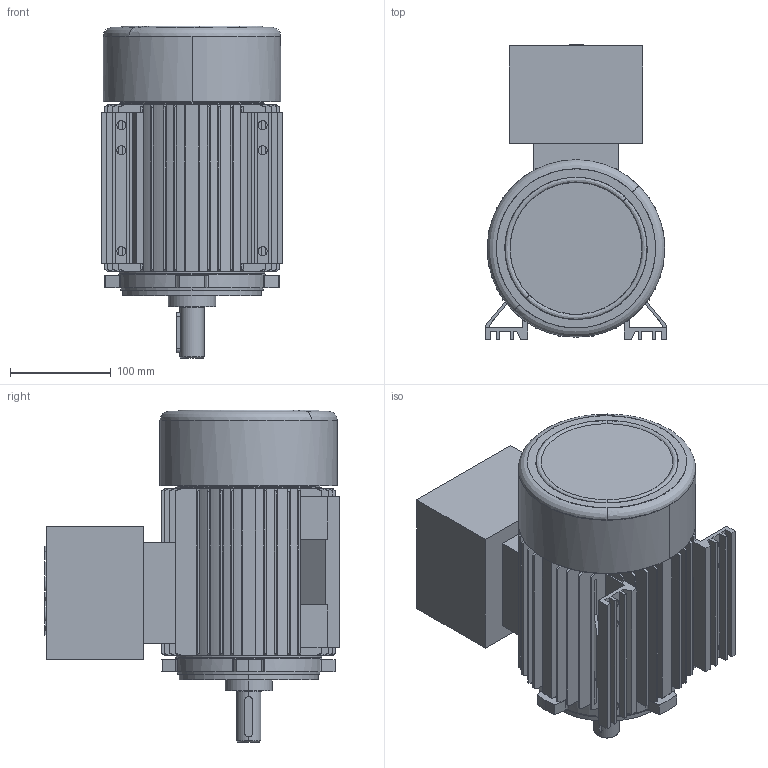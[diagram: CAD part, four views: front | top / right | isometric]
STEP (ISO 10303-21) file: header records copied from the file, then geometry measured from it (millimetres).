
FILE_DESCRIPTION (( 'STEP AP214' ), '1' );
FILE_NAME ('20.18392-A 5AT 90 B3 Exd STANDK.STEP', '2018-05-08T07:35:33', ( '' ), ( '' ), 'SwSTEP 2.0', 'SolidWorks 2017', '' );
FILE_SCHEMA (( 'AUTOMOTIVE_DESIGN' ));
Length unit declared in the file: millimetre
Products named in the file (1): 20.18392-A 5AT 90 B3 Exd STANDK
Bounding box: 180 x 292.5 x 329.3 mm (x, y, z)
Volume: 3862142.6 mm3; surface area: 729940.8 mm2
Topology: 4 solids, 4 shells, 718 faces, 1907 edges, 1241 vertices
Faces by surface type: plane 355, cylinder 210, cone 145, bspline 8
Entity records: 23215 total; most frequent: CARTESIAN_POINT 5227, ORIENTED_EDGE 3782, DIRECTION 3684, EDGE_CURVE 1891, AXIS2_PLACEMENT_3D 1314, VERTEX_POINT 1241, LINE 1056, VECTOR 1056
